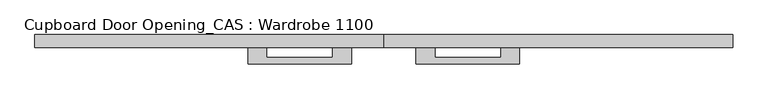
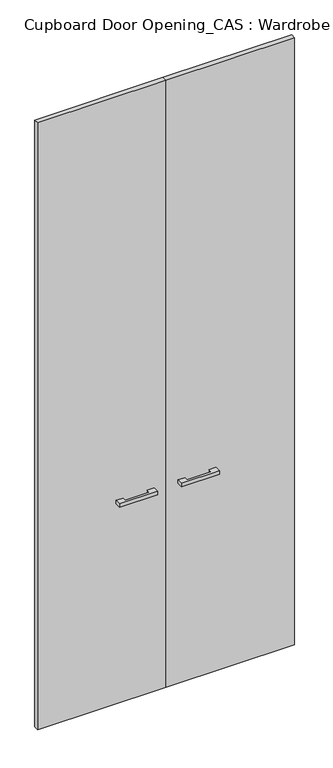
"""IFC4 building model written with IfcOpenShell, lengths in millimetres: furniture geometry, Cupboard Door Opening_CAS : Wardrobe 1100."""

import ifcopenshell
import ifcopenshell.guid

model = None  # the IFC model being written
_history = None  # IfcOwnerHistory: only IFC2X3 demands one
_inside = {}  # id of a spatial element -> (the spatial element, [elements in it])
_under = {}  # id of a project, library or spatial element -> (it, [spatial elements below it])
_declared = {}  # id of a project -> (the project, [libraries it declares])
_typed = {}  # id of a type object -> (the type object, [elements of that type])
_made_of = {}  # id of a material, layer set ... -> (it, [elements and type objects made of it])


def new_model(schema):
    """Start an empty IFC model of exactly this schema.

    Asked for "IFC4X3", IfcOpenShell would pick the latest addendum, in which some entities
    have other attributes; the version numbers below select the first issue.
    IFC2X3 requires an IfcOwnerHistory on every rooted entity: one is made here for all.
    """
    global model, _history
    if schema == "IFC4X3":
        model = ifcopenshell.file(schema_version=(4, 3, 0, 0))
    else:
        model = ifcopenshell.file(schema=schema)
    _inside.clear()
    _under.clear()
    _declared.clear()
    _typed.clear()
    _made_of.clear()
    _history = None
    if model.schema == "IFC2X3":
        org = make("IfcOrganization", Name="unknown")
        user = make(
            "IfcPersonAndOrganization",
            ThePerson=make("IfcPerson", FamilyName="unknown"),
            TheOrganization=org,
        )
        app = make(
            "IfcApplication",
            ApplicationDeveloper=org,
            Version="unknown",
            ApplicationFullName="unknown",
            ApplicationIdentifier="unknown",
        )
        _history = make(
            "IfcOwnerHistory",
            OwningUser=user,
            OwningApplication=app,
            ChangeAction="ADDED",
            CreationDate=0,
        )
    return model


def make(cls, **values):
    """One entity of the class cls with the attributes given. An attribute that is None is left unset."""
    return model.create_entity(
        cls, **{name: value for name, value in values.items() if value is not None}
    )


def rooted(cls, **values):
    """An entity with a GlobalId (a new one), such as an element, a storey or a relation."""
    return make(cls, GlobalId=ifcopenshell.guid.new(), OwnerHistory=_history, **values)


def si_unit(unit_type, name, prefix=None):
    """IfcSIUnit, for example si_unit("LENGTHUNIT", "METRE", prefix="MILLI")."""
    return make("IfcSIUnit", UnitType=unit_type, Prefix=prefix, Name=name)


def assignment(units):
    """IfcUnitAssignment: the units of a project."""
    return None if units is None else make("IfcUnitAssignment", Units=units)


def point(xyz):
    """IfcCartesianPoint."""
    return None if xyz is None else make("IfcCartesianPoint", Coordinates=xyz)


def direction(xyz):
    """IfcDirection."""
    return None if xyz is None else make("IfcDirection", DirectionRatios=xyz)


def frame(location, z_axis=None, x_axis=None):
    """IfcAxis2Placement3D, a coordinate frame: its origin and axes. An axis left out is left unset."""
    return make(
        "IfcAxis2Placement3D",
        Location=point(location),
        Axis=direction(z_axis),
        RefDirection=direction(x_axis),
    )


def origin():
    """The frame at (0, 0, 0) with its axes left unset."""
    return frame((0.0, 0.0, 0.0))


def origin_with_axes():
    """The frame at (0, 0, 0) with the z axis (0, 0, 1) and the x axis (1, 0, 0) written out."""
    return frame((0.0, 0.0, 0.0), z_axis=(0.0, 0.0, 1.0), x_axis=(1.0, 0.0, 0.0))


def place(relative_to, where):
    """IfcLocalPlacement: puts the frame where relative to a parent placement (None: the world)."""
    return make(
        "IfcLocalPlacement", PlacementRelTo=relative_to, RelativePlacement=where
    )


def context(
    kind, dimensions, precision=None, world=None, true_north=None, identifier=None
):
    """IfcGeometricRepresentationContext, for example the 3D "Model" context."""
    return make(
        "IfcGeometricRepresentationContext",
        ContextIdentifier=identifier,
        ContextType=kind,
        CoordinateSpaceDimension=dimensions,
        Precision=precision,
        WorldCoordinateSystem=world,
        TrueNorth=true_north,
    )


def project(units=None, contexts=None):
    """IfcProject with its units and contexts."""
    return rooted(
        "IfcProject",
        Name="project",
        RepresentationContexts=contexts,
        UnitsInContext=assignment(units),
    )


def spatial(cls, under=None, at=None, **own):
    """A site, building, storey or space (cls), placed at a placement, below another one or the project."""
    s = rooted(cls, ObjectPlacement=at, **own)
    if under is not None:
        _under.setdefault(under.id(), (under, []))[1].append(s)
    return s


def polyline(points):
    """IfcPolyline through the points."""
    return make("IfcPolyline", Points=[point(p) for p in points])


def outline(outer, holes=None, kind="AREA"):
    """IfcArbitraryClosedProfileDef: a profile drawn as a closed curve; with holes, ...WithVoids."""
    if holes is None:
        return make("IfcArbitraryClosedProfileDef", ProfileType=kind, OuterCurve=outer)
    return make(
        "IfcArbitraryProfileDefWithVoids",
        ProfileType=kind,
        OuterCurve=outer,
        InnerCurves=holes,
    )


def extrude(swept, where, along, depth):
    """IfcExtrudedAreaSolid: the profile swept, set in the frame where, extruded along a direction by depth."""
    return make(
        "IfcExtrudedAreaSolid",
        SweptArea=swept,
        Position=where,
        ExtrudedDirection=direction(along),
        Depth=depth,
    )


def shape(context_of_items, identifier, shape_type, items):
    """IfcShapeRepresentation: the items that make up one representation, for example the "Body"."""
    return make(
        "IfcShapeRepresentation",
        ContextOfItems=context_of_items,
        RepresentationIdentifier=identifier,
        RepresentationType=shape_type,
        Items=items,
    )


def source(mapping_origin, context_of_items, identifier, shape_type, items):
    """IfcRepresentationMap: a shape defined once, which mapped items show again and again."""
    return make(
        "IfcRepresentationMap",
        MappingOrigin=mapping_origin,
        MappedRepresentation=shape(context_of_items, identifier, shape_type, items),
    )


def transform(
    local_origin,
    x_axis=None,
    y_axis=None,
    z_axis=None,
    scale=None,
    scale2=None,
    scale3=None,
    uniform=True,
):
    """IfcCartesianTransformationOperator3D, or its non-uniform kind. x_axis, y_axis, z_axis: its Axis1, 2, 3."""
    if uniform:
        return make(
            "IfcCartesianTransformationOperator3D",
            Axis1=direction(x_axis),
            Axis2=direction(y_axis),
            LocalOrigin=point(local_origin),
            Scale=scale,
            Axis3=direction(z_axis),
        )
    return make(
        "IfcCartesianTransformationOperator3DnonUniform",
        Axis1=direction(x_axis),
        Axis2=direction(y_axis),
        LocalOrigin=point(local_origin),
        Scale=scale,
        Axis3=direction(z_axis),
        Scale2=scale2,
        Scale3=scale3,
    )


def mapped(mapping_source, mapping_target):
    """IfcMappedItem: shows the shape of a source again, moved by a transform."""
    return make(
        "IfcMappedItem", MappingSource=mapping_source, MappingTarget=mapping_target
    )


def made_of(thing, what):
    """Note that an element or type object is made of a material, layer set ...; save() writes the relation."""
    if what is not None:
        _made_of.setdefault(what.id(), (what, []))[1].append(thing)
    return thing


def element(
    cls,
    number,
    at=None,
    inside=None,
    cuts=None,
    type_object=None,
    material=None,
    context=None,
    identifier="Body",
    shape_type=None,
    held_by="IfcProductDefinitionShape",
    body=None,
    shapes=None,
    **own,
):
    """One element of the class cls, such as IfcWall. Its Tag is "e" and its number.

    at: its placement. inside: the storey or other place that contains it. cuts: it is an
    opening in that element (IfcRelVoidsElement). A single representation is given by context,
    identifier, shape_type and body (its items); several are given by shapes. held_by: the class
    of the entity that holds the representations. save() writes the other relations.
    """
    e = rooted(cls, Tag="e%d" % number, ObjectPlacement=at, **own)
    if body is not None:
        shapes = [shape(context, identifier, shape_type, body)]
    if shapes is not None:
        e.Representation = make(held_by, Representations=shapes)
    if inside is not None:
        _inside.setdefault(inside.id(), (inside, []))[1].append(e)
    if cuts is not None:
        rooted(
            "IfcRelVoidsElement", RelatingBuildingElement=cuts, RelatedOpeningElement=e
        )
    if type_object is not None:
        _typed.setdefault(type_object.id(), (type_object, []))[1].append(e)
    return made_of(e, material)


def aggregate(whole, parts):
    """IfcRelAggregates: a whole, such as a stair, and the parts it consists of."""
    return rooted("IfcRelAggregates", RelatingObject=whole, RelatedObjects=parts)


def save(model, path):
    """Write the relations noted so far, then the file.

    IfcRelAggregates (storeys below a building ...), IfcRelContainedInSpatialStructure (elements
    in a storey), IfcRelDefinesByType, IfcRelAssociatesMaterial and IfcRelDeclares: one each for
    every whole, place, type object, material and project.
    """
    for whole, parts in _under.values():
        aggregate(whole, parts)
    for where, things in _inside.values():
        rooted(
            "IfcRelContainedInSpatialStructure",
            RelatedElements=things,
            RelatingStructure=where,
        )
    for kind, things in _typed.values():
        rooted("IfcRelDefinesByType", RelatedObjects=things, RelatingType=kind)
    for what, things in _made_of.values():
        rooted("IfcRelAssociatesMaterial", RelatedObjects=things, RelatingMaterial=what)
    for by, libraries in _declared.values():
        rooted("IfcRelDeclares", RelatingContext=by, RelatedDefinitions=libraries)
    model.write(path)


def cupboard_door_opening_cas_wardrobe_1100_d716811a(model_context):
    return source(origin(), model_context, "Body", "SweptSolid", [
        extrude(outline(polyline([(175.0, -84.0), (175.0, -59.0), (204.0, -59.0), (204.0, -74.0), (306.0, -74.0), (306.0, -59.0), (335.0, -59.0), (335.0, -84.0), (175.0, -84.0)])), frame((0.0, 0.0, 887.5), z_axis=(0.0, 0.0, 1.0), x_axis=(1.0, 0.0, 0.0)), (0.0, 0.0, 1.0), 15.0),
        extrude(outline(polyline([(665.0, -59.0), (125.0, -59.0), (125.0, -39.0), (665.0, -39.0), (665.0, -59.0)])), origin_with_axes(), (0.0, 0.0, 1.0), 2695.0),
        extrude(outline(polyline([(75.0, -84.0), (-85.0, -84.0), (-85.0, -59.0), (-56.0, -59.0), (-56.0, -74.0), (46.0, -74.0), (46.0, -59.0), (75.0, -59.0), (75.0, -84.0)])), frame((0.0, 0.0, 887.5), z_axis=(0.0, 0.0, 1.0), x_axis=(1.0, 0.0, 0.0)), (0.0, 0.0, 1.0), 15.0),
        extrude(outline(polyline([(-415.0, -59.0), (-415.0, -39.0), (125.0, -39.0), (125.0, -59.0), (-415.0, -59.0)])), origin_with_axes(), (0.0, 0.0, 1.0), 2695.0),
    ])


if __name__ == "__main__":
    model = new_model("IFC4")
    model_context = context("Model", 3, world=origin())
    ifc_project = project(units=[si_unit("LENGTHUNIT", "METRE", prefix="MILLI")], contexts=[model_context])
    site = spatial("IfcSite", under=ifc_project)
    building = spatial("IfcBuilding", under=site)
    placement = place(None, origin())
    cupboard_door_opening_cas_wardrobe_1100_shape = cupboard_door_opening_cas_wardrobe_1100_d716811a(model_context)
    element("IfcFurniture", 1, ObjectType="Cupboard Door Opening_CAS : Wardrobe 1100", at=placement, inside=building, context=model_context, shape_type="MappedRepresentation", body=[
        mapped(cupboard_door_opening_cas_wardrobe_1100_shape, transform((0.0, 0.0, 0.0), x_axis=(1.0, 0.0, 0.0), y_axis=(0.0, 1.0, 0.0), z_axis=(0.0, 0.0, 1.0))),
    ])
    save(model, "model.ifc")
